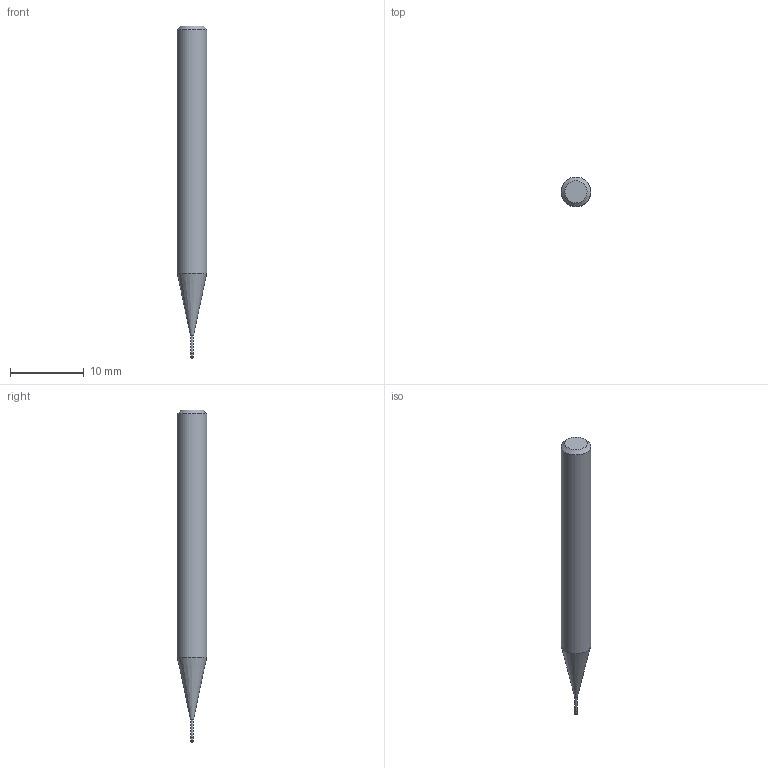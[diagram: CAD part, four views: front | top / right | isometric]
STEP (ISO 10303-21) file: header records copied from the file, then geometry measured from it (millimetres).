
FILE_DESCRIPTION((''),'2;1');
FILE_NAME('C:\Users\nsx150\AppData\Local\Temp\Mastercam 2021\YKS1SUSFZB\TEMP.step','2025-06-23T14:03:18',(''),(''),'STEP Write','Mastercam 2021 ... CNC Software, Inc.','');
FILE_SCHEMA(('AUTOMOTIVE_DESIGN'));
Length unit declared in the file: millimetre
Products named in the file (1): None
Bounding box: 4 x 4 x 45 mm (x, y, z)
Volume: 459.3 mm3; surface area: 492.8 mm2
Topology: 2 solids, 2 shells, 11 faces, 16 edges, 9 vertices
Faces by surface type: plane 4, cylinder 3, cone 3, torus 1
Full cylindrical faces by diameter (mm): 0.285 x1, 0.3 x1, 4 x1
Entity records: 253 total; most frequent: DIRECTION 44, CARTESIAN_POINT 31, AXIS2_PLACEMENT_3D 22, ORIENTED_EDGE 18, EDGE_LOOP 18, STYLED_ITEM 14, ADVANCED_FACE 11, FACE_BOUND 11
